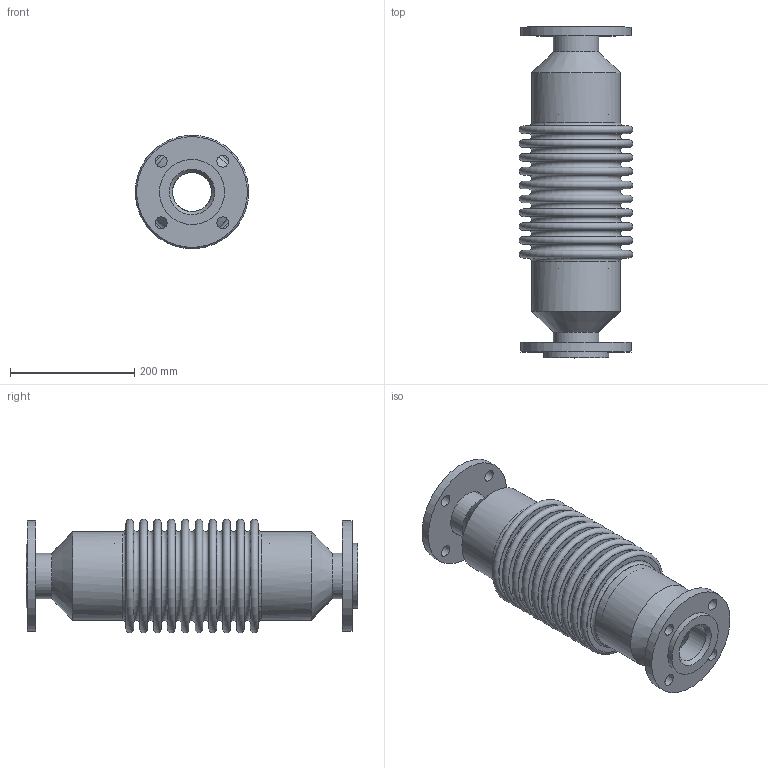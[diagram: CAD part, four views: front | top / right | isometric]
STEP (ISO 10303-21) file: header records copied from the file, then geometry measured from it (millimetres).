
FILE_DESCRIPTION(/* description */ (''),/* implementation_level */ '2;1');
FILE_NAME(/* name */ 'C:\001_Work\Designs\EFL250-ASA150LB\EFL250-2.5x21(ASA150LB).stp',/* time_stamp */ '2016-05-15T21:31:16-04:00',/* author */ ('rramoutar'),/* organization */ ('Mason Industries Inc.'),/* preprocessor_version */ 'ST-DEVELOPER v15.6',/* originating_system */ 'Autodesk Inventor 2015',/* authorisation */ '');
FILE_SCHEMA (('CONFIG_CONTROL_DESIGN'));
Length unit declared in the file: inch
Products named in the file (1): EFL250-2.5x21-ASA150LB
Bounding box: 182.31 x 533.4 x 182.31 mm (x, y, z)
Volume: 1401108.7 mm3; surface area: 888785.4 mm2
Topology: 2 solids, 2 shells, 126 faces, 224 edges, 149 vertices
Faces by surface type: plane 51, torus 42, cylinder 25, cone 8
Full cylindrical faces by diameter (mm): 19.05 x8, 62.713 x2, 73.025 x2, 73.152 x2, 76.2 x2, 104.775 x1, 132.563 x2, 140.843 x2, 142.875 x2, 177.8 x2
Entity records: 2809 total; most frequent: DIRECTION 522, CARTESIAN_POINT 395, EDGE_LOOP 268, ORIENTED_EDGE 268, AXIS2_PLACEMENT_3D 261, FACE_BOUND 142, CIRCLE 134, VERTEX_POINT 134
